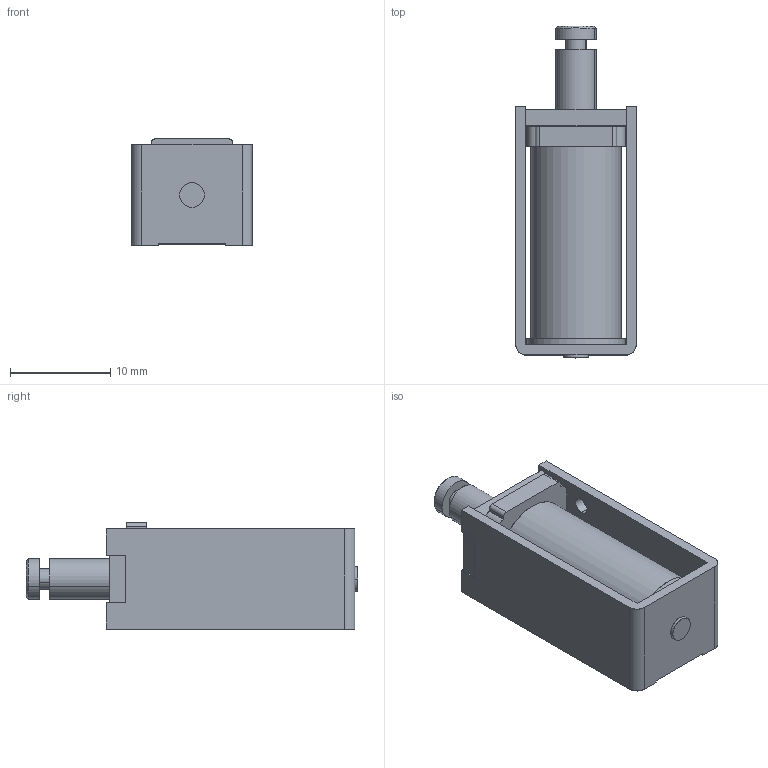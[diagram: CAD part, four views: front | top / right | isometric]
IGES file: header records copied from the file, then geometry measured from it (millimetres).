
Start section: SolidWorks IGES file using analytic representation for surfaces
Global section: file name: L:\カタログ\web用3Dデータ\CA0425\3D_CA0425\w_ca0425.IGS; native system: SolidWorks 2014; preprocessor: SolidWorks 2014; author: jiba; date: 140707.130617; units: millimetre
Bounding box: 12 x 33.15 x 10.6 mm (x, y, z)
Surface area: 2765.9 mm2 (no closed solid volume)
Topology: 0 solids, 0 shells, 89 faces, 1164 edges, 1164 vertices
Faces by surface type: bspline 57, revolution 32
